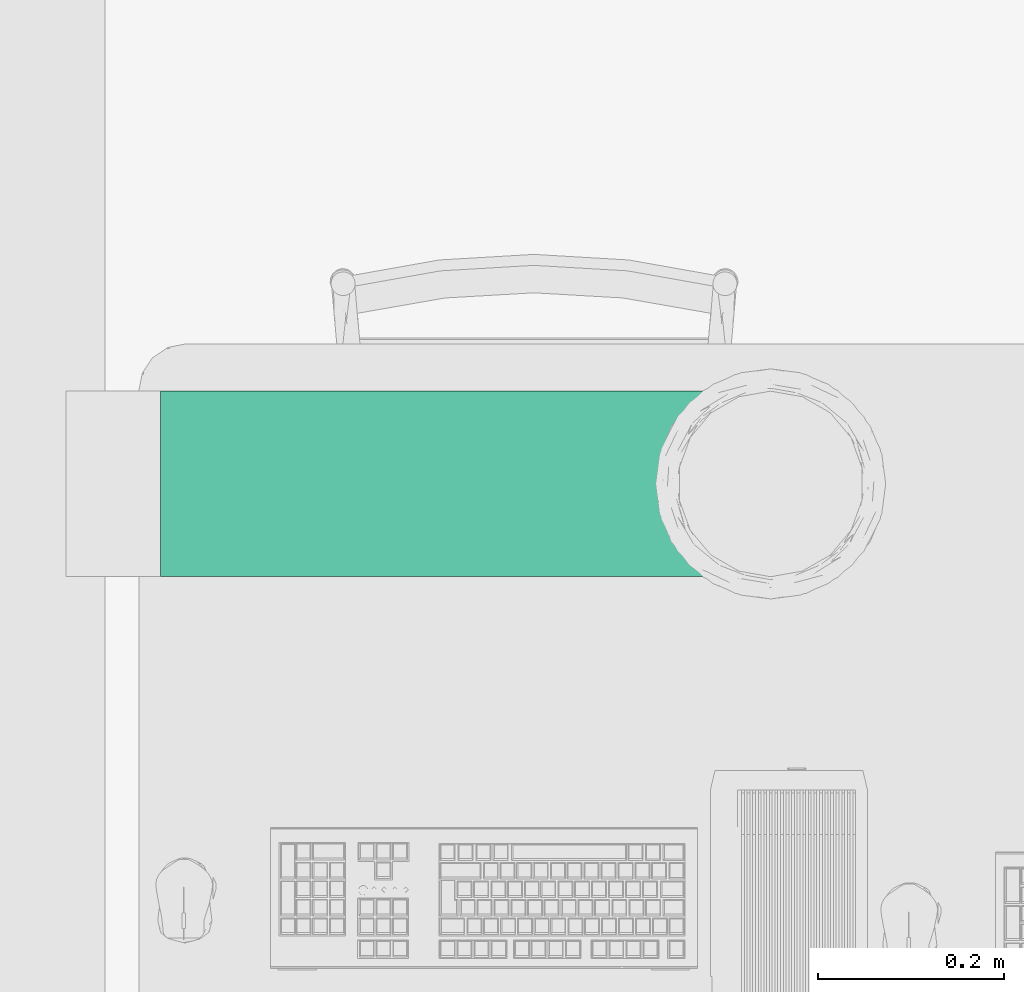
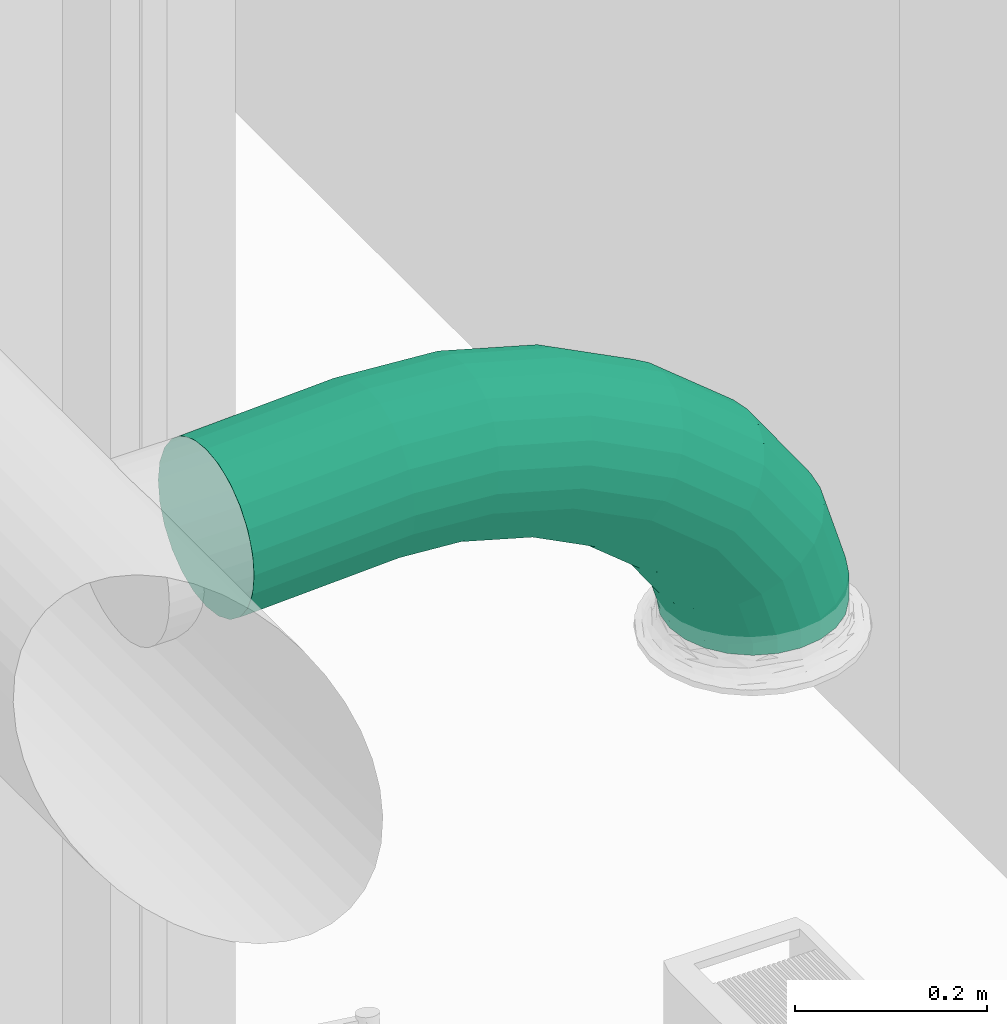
# One storey, part 27 of 31: 1 flow segment.
"""IFC2X3 building model written with IfcOpenShell, lengths in millimetres."""

import ifcopenshell
import ifcopenshell.guid

model = None  # the IFC model being written
_history = None  # IfcOwnerHistory: only IFC2X3 demands one
_inside = {}  # id of a spatial element -> (the spatial element, [elements in it])
_under = {}  # id of a project, library or spatial element -> (it, [spatial elements below it])
_declared = {}  # id of a project -> (the project, [libraries it declares])
_typed = {}  # id of a type object -> (the type object, [elements of that type])
_made_of = {}  # id of a material, layer set ... -> (it, [elements and type objects made of it])


def new_model(schema):
    """Start an empty IFC model of exactly this schema.

    Asked for "IFC4X3", IfcOpenShell would pick the latest addendum, in which some entities
    have other attributes; the version numbers below select the first issue.
    IFC2X3 requires an IfcOwnerHistory on every rooted entity: one is made here for all.
    """
    global model, _history
    if schema == "IFC4X3":
        model = ifcopenshell.file(schema_version=(4, 3, 0, 0))
    else:
        model = ifcopenshell.file(schema=schema)
    _inside.clear()
    _under.clear()
    _declared.clear()
    _typed.clear()
    _made_of.clear()
    _history = None
    if model.schema == "IFC2X3":
        org = make("IfcOrganization", Name="unknown")
        user = make(
            "IfcPersonAndOrganization",
            ThePerson=make("IfcPerson", FamilyName="unknown"),
            TheOrganization=org,
        )
        app = make(
            "IfcApplication",
            ApplicationDeveloper=org,
            Version="unknown",
            ApplicationFullName="unknown",
            ApplicationIdentifier="unknown",
        )
        _history = make(
            "IfcOwnerHistory",
            OwningUser=user,
            OwningApplication=app,
            ChangeAction="ADDED",
            CreationDate=0,
        )
    return model


def make(cls, **values):
    """One entity of the class cls with the attributes given. An attribute that is None is left unset."""
    return model.create_entity(
        cls, **{name: value for name, value in values.items() if value is not None}
    )


def entity(cls, *values):
    """Any entity or typed value of the class cls, its attributes in the order of the schema. None: left unset."""
    e = model.create_entity(cls)
    for i, value in enumerate(values):
        if value is not None:
            e[i] = value
    return e


def rooted(cls, **values):
    """An entity with a GlobalId (a new one), such as an element, a storey or a relation."""
    return make(cls, GlobalId=ifcopenshell.guid.new(), OwnerHistory=_history, **values)


def si_unit(unit_type, name, prefix=None):
    """IfcSIUnit, for example si_unit("LENGTHUNIT", "METRE", prefix="MILLI")."""
    return make("IfcSIUnit", UnitType=unit_type, Prefix=prefix, Name=name)


def converted_unit(unit_type, name, factor, base, dimensions=None, offset=None):
    """IfcConversionBasedUnit, such as the inch: factor (a typed value) times the base unit."""
    return make(
        "IfcConversionBasedUnit"
        if offset is None
        else "IfcConversionBasedUnitWithOffset",
        ConversionOffset=offset,
        Dimensions=None
        if dimensions is None
        else entity("IfcDimensionalExponents", *dimensions),
        UnitType=unit_type,
        Name=name,
        ConversionFactor=make(
            "IfcMeasureWithUnit", ValueComponent=factor, UnitComponent=base
        ),
    )


def derived_unit(unit_type, elements):
    """IfcDerivedUnit: a product of units, each with its exponent."""
    return make(
        "IfcDerivedUnit",
        Elements=[
            make("IfcDerivedUnitElement", Unit=unit, Exponent=power)
            for unit, power in elements
        ],
        UnitType=unit_type,
    )


def assignment(units):
    """IfcUnitAssignment: the units of a project."""
    return None if units is None else make("IfcUnitAssignment", Units=units)


def point(xyz):
    """IfcCartesianPoint."""
    return None if xyz is None else make("IfcCartesianPoint", Coordinates=xyz)


def direction(xyz):
    """IfcDirection."""
    return None if xyz is None else make("IfcDirection", DirectionRatios=xyz)


def frame(location, z_axis=None, x_axis=None):
    """IfcAxis2Placement3D, a coordinate frame: its origin and axes. An axis left out is left unset."""
    return make(
        "IfcAxis2Placement3D",
        Location=point(location),
        Axis=direction(z_axis),
        RefDirection=direction(x_axis),
    )


def origin():
    """The frame at (0, 0, 0) with its axes left unset."""
    return frame((0.0, 0.0, 0.0))


def place(relative_to, where):
    """IfcLocalPlacement: puts the frame where relative to a parent placement (None: the world)."""
    return make(
        "IfcLocalPlacement", PlacementRelTo=relative_to, RelativePlacement=where
    )


def context(
    kind, dimensions, precision=None, world=None, true_north=None, identifier=None
):
    """IfcGeometricRepresentationContext, for example the 3D "Model" context."""
    return make(
        "IfcGeometricRepresentationContext",
        ContextIdentifier=identifier,
        ContextType=kind,
        CoordinateSpaceDimension=dimensions,
        Precision=precision,
        WorldCoordinateSystem=world,
        TrueNorth=true_north,
    )


def subcontext(parent, identifier, kind, view, scale=None):
    """IfcGeometricRepresentationSubContext, for example "Body" below "Model"."""
    return make(
        "IfcGeometricRepresentationSubContext",
        ContextIdentifier=identifier,
        ContextType=kind,
        ParentContext=parent,
        TargetScale=scale,
        TargetView=view,
    )


def project(units=None, contexts=None):
    """IfcProject with its units and contexts."""
    return rooted(
        "IfcProject",
        Name="project",
        RepresentationContexts=contexts,
        UnitsInContext=assignment(units),
    )


def spatial(cls, under=None, at=None, **own):
    """A site, building, storey or space (cls), placed at a placement, below another one or the project."""
    s = rooted(cls, ObjectPlacement=at, **own)
    if under is not None:
        _under.setdefault(under.id(), (under, []))[1].append(s)
    return s


def faces_of(points, faces, orient=None, outer=None):
    """IfcFace entities. A face is a list of loops; a loop is a list of indices into points, from 0.

    orient and outer hold one flag for each loop. By default every Orientation is true, the
    first loop of a face is its IfcFaceOuterBound and the others are IfcFaceBound.
    """
    made = []
    for i, loops in enumerate(faces):
        bounds = []
        for j, loop in enumerate(loops):
            is_outer = j == 0 if outer is None else outer[i][j]
            bounds.append(
                make(
                    "IfcFaceOuterBound" if is_outer else "IfcFaceBound",
                    Bound=make("IfcPolyLoop", Polygon=[points[k] for k in loop]),
                    Orientation=True if orient is None else orient[i][j],
                )
            )
        made.append(make("IfcFace", Bounds=bounds))
    return made


def faceted_brep(points, faces, orient=None, outer=None, voids=None):
    """IfcFacetedBrep: a solid bounded by flat faces; with voids (closed shells), ...WithVoids."""
    shared = [point(p) for p in points]
    hull = make("IfcClosedShell", CfsFaces=faces_of(shared, faces, orient, outer))
    if voids is None:
        return make("IfcFacetedBrep", Outer=hull)
    return make(
        "IfcFacetedBrepWithVoids",
        Outer=hull,
        Voids=[
            make(cls, CfsFaces=faces_of(shared, fs, o, b)) for cls, fs, o, b in voids
        ],
    )


def shape(context_of_items, identifier, shape_type, items):
    """IfcShapeRepresentation: the items that make up one representation, for example the "Body"."""
    return make(
        "IfcShapeRepresentation",
        ContextOfItems=context_of_items,
        RepresentationIdentifier=identifier,
        RepresentationType=shape_type,
        Items=items,
    )


def made_of(thing, what):
    """Note that an element or type object is made of a material, layer set ...; save() writes the relation."""
    if what is not None:
        _made_of.setdefault(what.id(), (what, []))[1].append(thing)
    return thing


def type_object(cls, material=None, **own):
    """A type object (cls), such as IfcWallType, which elements share."""
    return made_of(rooted(cls, **own), material)


def element(
    cls,
    number,
    at=None,
    inside=None,
    cuts=None,
    type_object=None,
    material=None,
    context=None,
    identifier="Body",
    shape_type=None,
    held_by="IfcProductDefinitionShape",
    body=None,
    shapes=None,
    **own,
):
    """One element of the class cls, such as IfcWall. Its Tag is "e" and its number.

    at: its placement. inside: the storey or other place that contains it. cuts: it is an
    opening in that element (IfcRelVoidsElement). A single representation is given by context,
    identifier, shape_type and body (its items); several are given by shapes. held_by: the class
    of the entity that holds the representations. save() writes the other relations.
    """
    e = rooted(cls, Tag="e%d" % number, ObjectPlacement=at, **own)
    if body is not None:
        shapes = [shape(context, identifier, shape_type, body)]
    if shapes is not None:
        e.Representation = make(held_by, Representations=shapes)
    if inside is not None:
        _inside.setdefault(inside.id(), (inside, []))[1].append(e)
    if cuts is not None:
        rooted(
            "IfcRelVoidsElement", RelatingBuildingElement=cuts, RelatedOpeningElement=e
        )
    if type_object is not None:
        _typed.setdefault(type_object.id(), (type_object, []))[1].append(e)
    return made_of(e, material)


def aggregate(whole, parts):
    """IfcRelAggregates: a whole, such as a stair, and the parts it consists of."""
    return rooted("IfcRelAggregates", RelatingObject=whole, RelatedObjects=parts)


def save(model, path):
    """Write the relations noted so far, then the file.

    IfcRelAggregates (storeys below a building ...), IfcRelContainedInSpatialStructure (elements
    in a storey), IfcRelDefinesByType, IfcRelAssociatesMaterial and IfcRelDeclares: one each for
    every whole, place, type object, material and project.
    """
    for whole, parts in _under.values():
        aggregate(whole, parts)
    for where, things in _inside.values():
        rooted(
            "IfcRelContainedInSpatialStructure",
            RelatedElements=things,
            RelatingStructure=where,
        )
    for kind, things in _typed.values():
        rooted("IfcRelDefinesByType", RelatedObjects=things, RelatingType=kind)
    for what, things in _made_of.values():
        rooted("IfcRelAssociatesMaterial", RelatedObjects=things, RelatingMaterial=what)
    for by, libraries in _declared.values():
        rooted("IfcRelDeclares", RelatingContext=by, RelatedDefinitions=libraries)
    model.write(path)


model = new_model("IFC2X3")

# Units and contexts
model_context = context("Model", 3, precision=0.01, world=origin(), true_north=direction((6.123031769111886e-17, 1.0)))
body_context = subcontext(model_context, "Body", "Model", "MODEL_VIEW")
ifc_project = project(units=[si_unit("LENGTHUNIT", "METRE", prefix="MILLI"), si_unit("AREAUNIT", "SQUARE_METRE"), si_unit("VOLUMEUNIT", "CUBIC_METRE"), converted_unit("PLANEANGLEUNIT", "DEGREE", entity("IfcRatioMeasure", 0.017453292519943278), si_unit("PLANEANGLEUNIT", "RADIAN"), dimensions=[0, 0, 0, 0, 0, 0, 0]), si_unit("MASSUNIT", "GRAM", prefix="KILO"), derived_unit("MASSDENSITYUNIT", [(si_unit("MASSUNIT", "GRAM", prefix="KILO"), 1), (si_unit("LENGTHUNIT", "METRE"), -3)]), derived_unit("MOMENTOFINERTIAUNIT", [(si_unit("LENGTHUNIT", "METRE"), 4)]), si_unit("TIMEUNIT", "SECOND"), si_unit("FREQUENCYUNIT", "HERTZ"), si_unit("THERMODYNAMICTEMPERATUREUNIT", "DEGREE_CELSIUS"), derived_unit("THERMALTRANSMITTANCEUNIT", [(si_unit("MASSUNIT", "GRAM", prefix="KILO"), 1), (si_unit("THERMODYNAMICTEMPERATUREUNIT", "KELVIN"), -1), (si_unit("TIMEUNIT", "SECOND"), -3)]), derived_unit("VOLUMETRICFLOWRATEUNIT", [(si_unit("LENGTHUNIT", "METRE"), 3), (si_unit("TIMEUNIT", "SECOND"), -1)]), derived_unit("MASSFLOWRATEUNIT", [(si_unit("MASSUNIT", "GRAM", prefix="KILO"), 1), (si_unit("TIMEUNIT", "SECOND"), -1)]), derived_unit("ROTATIONALFREQUENCYUNIT", [(si_unit("TIMEUNIT", "SECOND"), -1)]), si_unit("ELECTRICCURRENTUNIT", "AMPERE"), si_unit("ELECTRICVOLTAGEUNIT", "VOLT"), si_unit("POWERUNIT", "WATT"), si_unit("FORCEUNIT", "NEWTON", prefix="KILO"), si_unit("ILLUMINANCEUNIT", "LUX"), si_unit("LUMINOUSFLUXUNIT", "LUMEN"), si_unit("LUMINOUSINTENSITYUNIT", "CANDELA"), derived_unit("USERDEFINED", [(si_unit("MASSUNIT", "GRAM", prefix="KILO"), -1), (si_unit("LENGTHUNIT", "METRE"), -2), (si_unit("TIMEUNIT", "SECOND"), 3), (si_unit("LUMINOUSFLUXUNIT", "LUMEN"), 1)]), derived_unit("SOUNDPOWERUNIT", [(si_unit("MASSUNIT", "GRAM", prefix="KILO"), 1), (si_unit("LENGTHUNIT", "METRE"), 2), (si_unit("TIMEUNIT", "SECOND"), -3)]), derived_unit("SOUNDPRESSUREUNIT", [(si_unit("MASSUNIT", "GRAM", prefix="KILO"), 1), (si_unit("LENGTHUNIT", "METRE"), -1), (si_unit("TIMEUNIT", "SECOND"), -2)]), derived_unit("LINEARVELOCITYUNIT", [(si_unit("LENGTHUNIT", "METRE"), 1), (si_unit("TIMEUNIT", "SECOND"), -1)]), si_unit("PRESSUREUNIT", "PASCAL"), derived_unit("USERDEFINED", [(si_unit("LENGTHUNIT", "METRE"), -2), (si_unit("MASSUNIT", "GRAM", prefix="KILO"), 1), (si_unit("TIMEUNIT", "SECOND"), -2)]), derived_unit("LINEARFORCEUNIT", [(si_unit("MASSUNIT", "GRAM", prefix="KILO"), 1), (si_unit("LENGTHUNIT", "METRE"), 1), (si_unit("TIMEUNIT", "SECOND"), -2), (si_unit("LENGTHUNIT", "METRE"), -1)]), derived_unit("PLANARFORCEUNIT", [(si_unit("MASSUNIT", "GRAM", prefix="KILO"), 1), (si_unit("LENGTHUNIT", "METRE"), 1), (si_unit("TIMEUNIT", "SECOND"), -2), (si_unit("LENGTHUNIT", "METRE"), -2)])], contexts=[model_context])

# Site, building, storey
site_placement = place(None, origin())
site = spatial("IfcSite", under=ifc_project, at=site_placement, Name="Default", CompositionType="ELEMENT")
building_placement = place(site_placement, origin())
building = spatial("IfcBuilding", under=site, at=building_placement, CompositionType="ELEMENT")
storey_placement = place(building_placement, frame((0.0, 0.0, 3880.0)))
storey = spatial("IfcBuildingStorey", under=building, at=storey_placement, Name="Niveau 1", CompositionType="ELEMENT", Elevation=3880.0)

# Flow segment
duct_segment_type = type_object("IfcDuctSegmentType", Name="Gaine flexible circulaire:Souple - Circulaire piquage Aldes", PredefinedType="FLEXIBLESEGMENT")
flow_segment_placement = place(storey_placement, frame((-1977.5000000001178, -5871.5952722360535, 2827.5000000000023)))
element("IfcFlowSegment", 1, at=flow_segment_placement, inside=storey, type_object=duct_segment_type, Name="Gaine flexible circulaire:Souple - Circulaire piquage Aldes", ObjectType="Gaine flexible circulaire:Souple - Circulaire piquage Aldes", context=body_context, shape_type="Brep", body=[
    faceted_brep([(570.8974596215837, 51.59527223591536, 0.0), (560.9074173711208, 75.71336772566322, 0.0), (557.5000000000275, 101.5952722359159, 0.0), (560.9074173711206, 127.47717674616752, 0.0), (570.8974596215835, 151.59527223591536, 0.0), (586.7893218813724, 172.30595035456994, 0.0), (607.5000000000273, 188.19781261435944, 0.0), (631.6180954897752, 198.1878548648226, 0.0), (657.5000000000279, 201.5952722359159, 0.0), (683.3819045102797, 198.1878548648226, 0.0), (707.5000000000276, 188.19781261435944, 0.0), (728.2106781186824, 172.30595035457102, 0.0), (744.1025403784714, 151.59527223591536, 0.0), (754.0925826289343, 127.47717674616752, 0.0), (757.5000000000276, 101.5952722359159, 0.0), (754.0925826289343, 75.7133677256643, 0.0), (744.1025403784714, 51.59527223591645, 0.0), (728.2106781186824, 30.88459411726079, 0.0), (707.5000000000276, 14.992731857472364, 0.0), (683.3819045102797, 5.002689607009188, 0.0), (657.5000000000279, 1.5952722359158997, 0.0), (631.6180954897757, 5.002689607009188, 0.0), (607.5000000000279, 14.992731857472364, 0.0), (586.789321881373, 30.88459411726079, 0.0), (757.5000000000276, 101.5952722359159, 37.601289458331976), (754.0925826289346, 75.7133677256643, 37.09085388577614), (744.1025403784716, 51.59527223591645, 35.59433250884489), (728.2106781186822, 30.88459411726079, 33.213710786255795), (707.5000000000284, 14.992731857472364, 30.111224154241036), (683.38190451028, 5.002689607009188, 26.498301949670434), (657.5000000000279, 1.5952722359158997, 22.621158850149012), (631.6180954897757, 5.002689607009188, 18.744015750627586), (607.5000000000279, 14.992731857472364, 15.131093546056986), (586.7893218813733, 30.88459411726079, 12.028606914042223), (560.9074173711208, 75.71336772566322, 8.15146381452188), (557.5000000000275, 101.5952722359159, 7.641028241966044), (570.8974596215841, 51.59527223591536, 9.64798519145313), (570.8974596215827, 151.59527223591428, 9.64798519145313), (586.7893218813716, 172.30595035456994, 12.028606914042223), (560.9074173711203, 127.47717674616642, 8.15146381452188), (631.6180954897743, 198.1878548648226, 18.744015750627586), (657.5000000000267, 201.5952722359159, 22.621158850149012), (607.5000000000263, 188.19781261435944, 15.131093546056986), (683.3819045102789, 198.1878548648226, 26.498301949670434), (707.5000000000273, 188.19781261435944, 30.111224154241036), (728.2106781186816, 172.30595035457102, 33.213710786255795), (744.1025403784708, 151.59527223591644, 35.59433250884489), (754.092582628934, 127.4771767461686, 37.09085388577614), (0.0, 198.1878548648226, 296.6180954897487), (0.0, 188.19781261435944, 272.50000000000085), (0.0, 172.30595035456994, 251.7893218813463), (0.0, 151.59527223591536, 235.89745962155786), (0.0, 127.47717674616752, 225.90741737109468), (0.0, 101.5952722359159, 222.5000000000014), (0.0, 75.71336772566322, 225.90741737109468), (0.0, 51.59527223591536, 235.89745962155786), (0.0, 30.88459411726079, 251.7893218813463), (0.0, 14.992731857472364, 272.50000000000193), (0.0, 5.002689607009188, 296.6180954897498), (0.0, 1.5952722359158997, 322.5000000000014), (0.0, 5.002689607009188, 348.38190451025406), (0.0, 14.992731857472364, 372.50000000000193), (0.0, 30.88459411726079, 393.2106781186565), (0.0, 51.59527223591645, 409.1025403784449), (0.0, 75.7133677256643, 419.09258262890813), (0.0, 101.5952722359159, 422.5000000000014), (0.0, 127.47717674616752, 419.09258262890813), (0.0, 151.59527223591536, 409.1025403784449), (0.0, 172.30595035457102, 393.2106781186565), (0.0, 188.19781261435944, 372.50000000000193), (0.0, 198.1878548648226, 348.38190451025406), (0.0, 201.5952722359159, 322.5000000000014), (726.7730839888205, 101.5952722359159, 137.8587289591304), (723.6737796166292, 75.7133677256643, 136.34296566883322), (714.5870789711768, 51.59527223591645, 131.89897256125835), (700.1322256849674, 30.88459411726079, 124.82960042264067), (681.2942941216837, 14.992731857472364, 115.61661528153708), (659.3570581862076, 5.002689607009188, 104.88786685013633), (635.8155042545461, 1.5952722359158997, 93.3745016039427), (612.2739503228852, 5.002689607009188, 81.86113635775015), (590.3367143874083, 14.992731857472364, 71.13238792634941), (571.4987828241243, 30.88459411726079, 61.91940278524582), (557.0439295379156, 51.59527223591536, 54.85003064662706), (547.9572288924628, 75.71336772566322, 50.406037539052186), (544.8579245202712, 101.59527223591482, 48.89027424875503), (547.9572288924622, 127.47717674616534, 50.406037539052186), (557.0439295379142, 151.59527223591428, 54.85003064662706), (571.4987828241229, 172.30595035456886, 61.919402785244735), (612.2739503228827, 198.1878548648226, 81.86113635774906), (635.8155042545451, 201.5952722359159, 93.3745016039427), (590.3367143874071, 188.19781261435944, 71.13238792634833), (659.3570581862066, 198.1878548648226, 104.88786685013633), (681.2942941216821, 188.19781261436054, 115.61661528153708), (700.1322256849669, 172.30595035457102, 124.82960042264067), (714.5870789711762, 151.59527223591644, 131.89897256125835), (723.6737796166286, 127.4771767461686, 136.34296566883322), (651.7535184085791, 101.5952722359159, 244.66386762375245), (649.2354487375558, 75.7133677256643, 242.32060216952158), (641.8528420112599, 51.59527223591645, 235.45049547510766), (630.1088106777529, 30.884594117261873, 224.5217339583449), (614.8036910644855, 14.992731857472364, 210.27909465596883), (596.9805017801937, 5.002689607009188, 193.69318989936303), (577.8538637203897, 1.5952722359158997, 175.89432168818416), (558.727225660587, 5.002689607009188, 158.09545347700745), (540.9040363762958, 14.992731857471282, 141.50954872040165), (525.5989167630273, 30.88459411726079, 127.26690941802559), (513.8548854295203, 51.59527223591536, 116.33814790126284), (506.4722787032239, 75.71336772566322, 109.46804120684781), (503.9542090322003, 101.59527223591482, 107.12477575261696), (506.4722787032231, 127.47717674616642, 109.46804120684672), (513.8548854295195, 151.59527223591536, 116.33814790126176), (525.5989167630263, 172.30595035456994, 127.26690941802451), (558.727225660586, 198.1878548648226, 158.09545347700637), (577.8538637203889, 201.5952722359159, 175.89432168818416), (540.9040363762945, 188.19781261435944, 141.50954872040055), (596.9805017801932, 198.1878548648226, 193.69318989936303), (614.8036910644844, 188.19781261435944, 210.27909465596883), (630.1088106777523, 172.30595035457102, 224.52173395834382), (641.8528420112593, 151.59527223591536, 235.45049547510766), (649.2354487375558, 127.4771767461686, 242.32060216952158), (549.2218668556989, 101.5952722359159, 328.2949576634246), (547.3488429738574, 75.7133677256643, 325.42555338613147), (541.857414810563, 51.59527223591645, 317.01288571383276), (533.1218141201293, 30.88459411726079, 303.6302640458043), (521.7373576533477, 14.992731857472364, 286.1896919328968), (508.47987730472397, 5.002689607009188, 265.879715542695), (494.2528484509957, 1.5952722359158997, 244.08442620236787), (480.025819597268, 5.002689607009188, 222.2891368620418), (466.7683392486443, 14.992731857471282, 201.97916047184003), (455.3838827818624, 30.88459411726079, 184.53858835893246), (446.64828209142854, 51.59527223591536, 171.15596669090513), (441.1568539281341, 75.71336772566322, 162.7432990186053), (439.2838300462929, 101.59527223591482, 159.87389474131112), (441.1568539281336, 127.47717674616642, 162.74329901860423), (446.64828209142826, 151.59527223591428, 171.15596669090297), (455.3838827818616, 172.30595035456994, 184.5385883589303), (480.02581959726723, 198.1878548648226, 222.2891368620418), (494.2528484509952, 201.5952722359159, 244.08442620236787), (466.76833924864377, 188.19781261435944, 201.97916047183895), (508.4798773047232, 198.1878548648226, 265.87971554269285), (521.7373576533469, 188.19781261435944, 286.1896919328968), (533.1218141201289, 172.30595035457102, 303.6302640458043), (541.8574148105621, 151.59527223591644, 317.0128857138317), (547.3488429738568, 127.4771767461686, 325.4255533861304), (432.35712103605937, 101.5952722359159, 388.0121507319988), (431.10636400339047, 75.7133677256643, 384.82477177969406), (427.439329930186, 51.59527223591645, 375.47984953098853), (421.6059211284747, 30.884594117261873, 360.6142249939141), (414.00367476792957, 14.992731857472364, 341.2409659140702), (405.15067137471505, 5.002689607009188, 318.68032788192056), (395.65022849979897, 1.5952722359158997, 294.46978109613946), (386.1497856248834, 5.002689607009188, 270.2592343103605), (377.2967822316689, 14.992731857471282, 247.69859627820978), (369.6945358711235, 30.88459411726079, 228.32533719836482), (363.8611270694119, 51.59527223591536, 213.45971266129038), (360.1940929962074, 75.71336772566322, 204.11479041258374), (358.9433359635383, 101.59527223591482, 200.92741146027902), (360.19409299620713, 127.47717674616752, 204.11479041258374), (363.8611270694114, 151.59527223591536, 213.45971266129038), (369.694535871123, 172.30595035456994, 228.32533719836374), (386.14978562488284, 198.1878548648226, 270.25923431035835), (395.6502284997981, 201.5952722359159, 294.4697810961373), (377.2967822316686, 188.19781261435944, 247.6985962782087), (405.15067137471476, 198.1878548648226, 318.6803278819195), (414.003674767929, 188.19781261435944, 341.24096591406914), (421.6059211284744, 172.30595035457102, 360.6142249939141), (427.4393299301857, 151.59527223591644, 375.47984953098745), (431.10636400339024, 127.4771767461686, 384.82477177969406), (310.18671552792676, 101.5952722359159, 422.5466015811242), (309.5903011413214, 75.7133677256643, 419.1742566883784), (307.8417026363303, 51.59527223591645, 409.28704174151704), (305.0600841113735, 30.88459411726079, 393.5587540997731), (301.4350082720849, 14.992731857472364, 373.0612505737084), (297.2135180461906, 5.002689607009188, 349.19140215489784), (292.68330101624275, 1.5952722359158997, 323.5758995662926), (288.15308398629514, 5.002689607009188, 297.9603969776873), (283.93159376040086, 14.992731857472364, 274.0905485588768), (280.30651792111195, 30.88459411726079, 253.59304503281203), (277.52489939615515, 51.59527223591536, 237.86475739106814), (275.77630089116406, 75.71336772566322, 227.97754244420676), (275.1798865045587, 101.59527223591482, 224.60519755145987), (275.77630089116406, 127.47717674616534, 227.97754244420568), (277.52489939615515, 151.59527223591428, 237.86475739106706), (280.30651792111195, 172.30595035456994, 253.59304503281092), (288.15308398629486, 198.1878548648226, 297.96039697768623), (292.6833010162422, 201.5952722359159, 323.57589956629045), (283.9315937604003, 188.19781261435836, 274.09054855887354), (297.2135180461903, 198.1878548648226, 349.1914021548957), (301.4350082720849, 188.19781261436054, 373.0612505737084), (305.0600841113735, 172.3059503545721, 393.55875409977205), (307.8417026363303, 151.59527223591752, 409.28704174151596), (309.5903011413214, 127.47717674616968, 419.1742566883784), (194.80690883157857, 101.5952722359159, 431.1701709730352), (194.75671307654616, 75.7133677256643, 427.75700130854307), (194.60954656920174, 51.59527223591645, 417.7500941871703), (194.37543846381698, 30.88459411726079, 401.8314037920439), (194.07034284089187, 14.992731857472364, 381.0857625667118), (193.71505146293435, 5.002689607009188, 356.9269516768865), (193.33377685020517, 1.5952722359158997, 331.00135416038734), (192.95250223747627, 5.002689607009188, 305.07575664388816), (192.59721085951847, 14.992731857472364, 280.9169457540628), (192.29211523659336, 30.88459411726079, 260.1713045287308), (192.0580071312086, 51.59527223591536, 244.2526141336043), (191.91084062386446, 75.71336772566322, 234.2457070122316), (191.86064486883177, 101.59527223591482, 230.83253734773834), (191.91084062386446, 127.47717674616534, 234.24570701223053), (192.0580071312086, 151.59527223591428, 244.25261413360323), (192.29211523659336, 172.30595035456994, 260.1713045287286), (192.95250223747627, 198.1878548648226, 305.07575664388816), (193.33377685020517, 201.5952722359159, 331.0013541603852), (192.59721085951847, 188.19781261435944, 280.9169457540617), (193.71505146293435, 198.1878548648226, 356.92695167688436), (194.07034284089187, 188.19781261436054, 381.08576256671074), (194.37543846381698, 172.30595035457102, 401.8314037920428), (194.60954656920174, 151.59527223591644, 417.7500941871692), (194.75671307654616, 127.4771767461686, 427.757001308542), (92.17677784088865, 101.5952722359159, 426.5290380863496), (92.33071048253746, 75.71337104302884, 423.12510039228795), (92.78201817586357, 51.59527738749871, 413.1452595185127), (93.49994510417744, 30.88459897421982, 397.2696238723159), (94.43556579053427, 14.992734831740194, 376.5800905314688), (95.525119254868, 5.002690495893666, 352.48661648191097), (96.69435420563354, 1.5952722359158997, 326.6311326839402), (97.8635891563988, 5.002690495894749, 300.77564888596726), (98.95314262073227, 14.992734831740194, 276.68217483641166), (99.88876330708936, 30.884598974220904, 255.9926414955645), (100.6066902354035, 51.59527738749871, 240.11700584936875), (101.05799792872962, 75.71337104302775, 230.13716497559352), (101.21193057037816, 101.5952722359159, 226.73322728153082), (101.05799792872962, 127.47717342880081, 230.13716497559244), (100.6066902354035, 151.59526708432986, 240.1170058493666), (99.88876330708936, 172.30594549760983, 255.99264149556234), (98.9531426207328, 188.19780964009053, 276.6821748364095), (97.8635891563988, 198.18785397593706, 300.7756488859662), (96.69435420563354, 201.5952722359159, 326.6311326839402), (95.52511925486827, 198.18785397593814, 352.48661648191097), (94.43556579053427, 188.19780964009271, 376.5800905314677), (93.49994510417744, 172.30594549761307, 397.2696238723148), (92.78201817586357, 151.5952670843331, 413.1452595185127), (92.33071048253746, 127.47717342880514, 423.12510039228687), (2.1108599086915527, 75.7133677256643, 419.09258262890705), (2.3340095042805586, 51.59527223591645, 409.1025403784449), (2.034747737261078, 101.5952722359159, 422.50000000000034), (2.6889892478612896, 30.884594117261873, 393.21067811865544), (3.6903386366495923, 5.002689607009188, 348.38190451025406), (4.2684679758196, 1.5952722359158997, 322.50000000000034), (3.1516078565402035, 14.992731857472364, 372.50000000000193), (4.846597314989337, 5.002689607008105, 296.6180954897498), (5.385328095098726, 14.992731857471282, 272.50000000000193), (5.84794670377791, 30.88459411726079, 251.7893218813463), (6.202926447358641, 51.59527223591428, 235.89745962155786), (6.426076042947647, 75.71336772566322, 225.9074173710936), (6.502188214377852, 101.5952722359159, 222.5000000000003), (6.426076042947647, 127.47717674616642, 225.9074173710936), (6.202926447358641, 151.59527223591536, 235.89745962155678), (5.84794670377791, 172.30595035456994, 251.78932188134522), (5.385328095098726, 188.19781261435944, 272.4999999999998), (4.846597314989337, 198.1878548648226, 296.61809548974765), (4.2684679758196, 201.5952722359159, 322.50000000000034), (3.6903386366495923, 198.1878548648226, 348.3819045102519), (3.1516078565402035, 188.19781261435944, 372.50000000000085), (2.6889892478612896, 172.30595035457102, 393.21067811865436), (2.3340095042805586, 151.59527223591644, 409.10254037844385), (2.1108599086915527, 127.4771767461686, 419.09258262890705)], [[[0, 1, 2, 3, 4, 5, 6, 7, 8, 9, 10, 11, 12, 13, 14, 15, 16, 17, 18, 19, 20, 21, 22, 23]], [[14, 24, 25, 15]], [[15, 25, 26, 16]], [[16, 26, 27, 17]], [[18, 28, 29, 19]], [[19, 29, 30, 20]], [[17, 27, 28, 18]], [[31, 32, 22, 21]], [[30, 31, 21, 20]], [[22, 32, 33, 23]], [[34, 35, 2, 1]], [[36, 34, 1, 0]], [[23, 33, 36, 0]], [[4, 37, 38, 5]], [[39, 37, 4, 3]], [[2, 35, 39, 3]], [[40, 41, 8, 7]], [[42, 40, 7, 6]], [[38, 42, 6, 5]], [[10, 9, 43, 44]], [[11, 10, 44, 45]], [[8, 41, 43, 9]], [[13, 12, 46, 47]], [[14, 13, 47, 24]], [[45, 46, 12, 11]], [[48, 49, 50, 51, 52, 53, 54, 55, 56, 57, 58, 59, 60, 61, 62, 63, 64, 65, 66, 67, 68, 69, 70, 71]], [[24, 72, 73, 25]], [[25, 73, 74, 26]], [[26, 74, 75, 27]], [[27, 75, 76, 28]], [[28, 76, 77, 29]], [[78, 30, 29, 77]], [[79, 80, 32, 31]], [[78, 79, 31, 30]], [[81, 33, 32, 80]], [[82, 83, 34, 36]], [[82, 36, 33, 81]], [[84, 35, 34, 83]], [[85, 86, 37, 39]], [[84, 85, 39, 35]], [[38, 37, 86, 87]], [[88, 89, 41, 40]], [[90, 88, 40, 42]], [[87, 90, 42, 38]], [[43, 41, 89, 91]], [[44, 43, 91, 92]], [[45, 44, 92, 93]], [[47, 46, 94, 95]], [[24, 47, 95, 72]], [[93, 94, 46, 45]], [[73, 72, 96, 97]], [[74, 73, 97, 98]], [[98, 99, 75, 74]], [[76, 75, 99, 100]], [[77, 76, 100, 101]], [[78, 77, 101, 102]], [[103, 104, 80, 79]], [[102, 103, 79, 78]], [[81, 80, 104, 105]], [[106, 107, 83, 82]], [[105, 106, 82, 81]], [[84, 83, 107, 108]], [[109, 110, 86, 85]], [[108, 109, 85, 84]], [[111, 87, 86, 110]], [[112, 113, 89, 88]], [[114, 112, 88, 90]], [[114, 90, 87, 111]], [[89, 113, 115, 91]], [[91, 115, 116, 92]], [[117, 93, 92, 116]], [[94, 118, 119, 95]], [[95, 119, 96, 72]], [[118, 94, 93, 117]], [[97, 96, 120, 121]], [[98, 97, 121, 122]], [[122, 123, 99, 98]], [[100, 99, 123, 124]], [[101, 100, 124, 125]], [[102, 101, 125, 126]], [[127, 128, 104, 103]], [[126, 127, 103, 102]], [[105, 104, 128, 129]], [[130, 131, 107, 106]], [[129, 130, 106, 105]], [[108, 107, 131, 132]], [[133, 134, 110, 109]], [[132, 133, 109, 108]], [[135, 111, 110, 134]], [[136, 137, 113, 112]], [[138, 136, 112, 114]], [[138, 114, 111, 135]], [[113, 137, 139, 115]], [[115, 139, 140, 116]], [[141, 117, 116, 140]], [[118, 142, 143, 119]], [[119, 143, 120, 96]], [[142, 118, 117, 141]], [[121, 120, 144, 145]], [[122, 121, 145, 146]], [[146, 147, 123, 122]], [[124, 123, 147, 148]], [[125, 124, 148, 149]], [[126, 125, 149, 150]], [[151, 152, 128, 127]], [[150, 151, 127, 126]], [[129, 128, 152, 153]], [[154, 155, 131, 130]], [[153, 154, 130, 129]], [[132, 131, 155, 156]], [[157, 158, 134, 133]], [[156, 157, 133, 132]], [[159, 135, 134, 158]], [[160, 161, 137, 136]], [[162, 160, 136, 138]], [[162, 138, 135, 159]], [[137, 161, 163, 139]], [[139, 163, 164, 140]], [[165, 141, 140, 164]], [[142, 166, 167, 143]], [[143, 167, 144, 120]], [[166, 142, 141, 165]], [[144, 168, 169, 145]], [[145, 169, 170, 146]], [[146, 170, 171, 147]], [[147, 171, 172, 148]], [[148, 172, 173, 149]], [[174, 150, 149, 173]], [[175, 176, 152, 151]], [[174, 175, 151, 150]], [[177, 153, 152, 176]], [[178, 179, 155, 154]], [[178, 154, 153, 177]], [[180, 156, 155, 179]], [[181, 182, 158, 157]], [[180, 181, 157, 156]], [[159, 158, 182, 183]], [[184, 185, 161, 160]], [[186, 184, 160, 162]], [[183, 186, 162, 159]], [[163, 161, 185, 187]], [[164, 163, 187, 188]], [[165, 164, 188, 189]], [[167, 166, 190, 191]], [[144, 167, 191, 168]], [[189, 190, 166, 165]], [[169, 168, 192, 193]], [[170, 169, 193, 194]], [[194, 195, 171, 170]], [[172, 171, 195, 196]], [[173, 172, 196, 197]], [[174, 173, 197, 198]], [[199, 200, 176, 175]], [[198, 199, 175, 174]], [[177, 176, 200, 201]], [[202, 203, 179, 178]], [[201, 202, 178, 177]], [[180, 179, 203, 204]], [[205, 206, 182, 181]], [[204, 205, 181, 180]], [[207, 183, 182, 206]], [[208, 209, 185, 184]], [[210, 208, 184, 186]], [[210, 186, 183, 207]], [[185, 209, 211, 187]], [[187, 211, 212, 188]], [[213, 189, 188, 212]], [[190, 214, 215, 191]], [[191, 215, 192, 168]], [[214, 190, 189, 213]], [[216, 217, 193]], [[192, 216, 193]], [[194, 193, 217]], [[195, 194, 218]], [[218, 194, 217]], [[218, 219, 195]], [[197, 220, 221]], [[198, 221, 222]], [[219, 196, 195]], [[196, 220, 197]], [[221, 198, 197]], [[196, 219, 220]], [[199, 222, 223]], [[200, 223, 224]], [[199, 198, 222]], [[201, 200, 224]], [[199, 223, 200]], [[224, 225, 201]], [[203, 226, 227]], [[204, 227, 228]], [[225, 202, 201]], [[225, 226, 202]], [[202, 226, 203]], [[227, 204, 203]], [[205, 229, 230]], [[206, 230, 231]], [[228, 229, 204]], [[204, 229, 205]], [[230, 206, 205]], [[231, 207, 206]], [[210, 232, 233]], [[208, 233, 234]], [[210, 207, 232]], [[209, 208, 234]], [[210, 233, 208]], [[232, 207, 231]], [[209, 234, 235]], [[211, 235, 236]], [[209, 235, 211]], [[212, 211, 236]], [[237, 213, 212]], [[212, 236, 237]], [[214, 238, 239]], [[215, 239, 216]], [[238, 213, 237]], [[238, 214, 213]], [[214, 239, 215]], [[216, 192, 215]], [[240, 241, 218]], [[242, 240, 217]], [[217, 216, 242]], [[219, 218, 241]], [[217, 240, 218]], [[241, 243, 219]], [[244, 245, 222]], [[246, 244, 221]], [[243, 220, 219]], [[243, 246, 220]], [[220, 246, 221]], [[244, 222, 221]], [[223, 245, 247]], [[224, 247, 248]], [[222, 245, 223]], [[224, 223, 247]], [[225, 224, 248]], [[248, 249, 225]], [[227, 250, 251]], [[228, 251, 252]], [[249, 226, 225]], [[249, 250, 226]], [[226, 250, 227]], [[251, 228, 227]], [[228, 252, 253]], [[229, 253, 254]], [[228, 253, 229]], [[229, 254, 230]], [[230, 255, 231]], [[230, 254, 255]], [[231, 256, 232]], [[232, 256, 257]], [[232, 257, 233]], [[258, 234, 233]], [[257, 258, 233]], [[256, 231, 255]], [[259, 260, 235]], [[258, 259, 234]], [[235, 234, 259]], [[261, 237, 236]], [[235, 260, 236]], [[236, 260, 261]], [[262, 263, 238]], [[262, 238, 237]], [[238, 263, 239]], [[242, 216, 239]], [[263, 242, 239]], [[262, 237, 261]], [[242, 65, 64, 240]], [[240, 64, 63, 241]], [[241, 63, 62, 243]], [[60, 59, 245, 244]], [[61, 60, 244, 246]], [[246, 243, 62, 61]], [[245, 59, 58, 247]], [[247, 58, 57, 248]], [[248, 57, 56, 249]], [[250, 55, 54, 251]], [[251, 54, 53, 252]], [[249, 56, 55, 250]], [[253, 252, 53, 52]], [[254, 253, 52, 51]], [[255, 254, 51, 50]], [[257, 256, 49, 48]], [[258, 257, 48, 71]], [[50, 49, 256, 255]], [[259, 258, 71, 70]], [[260, 259, 70, 69]], [[261, 260, 69, 68]], [[263, 262, 67, 66]], [[242, 263, 66, 65]], [[261, 68, 67, 262]]]),
])

save(model, "model.ifc")
